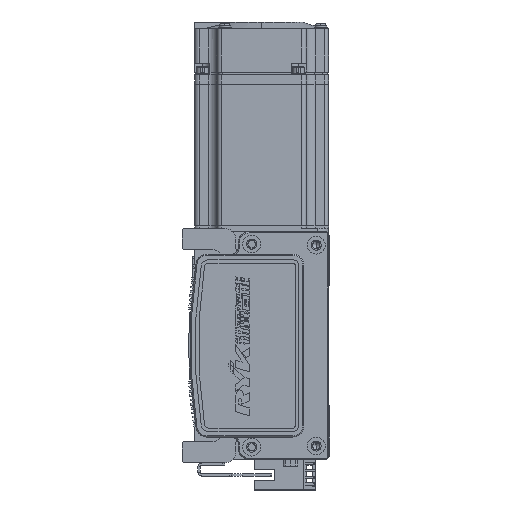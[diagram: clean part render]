
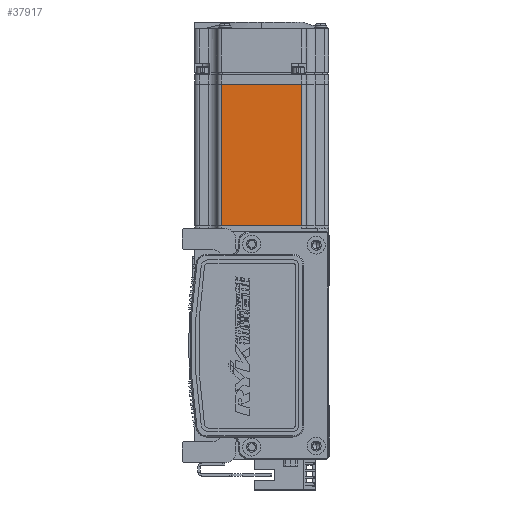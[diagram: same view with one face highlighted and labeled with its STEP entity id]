
A CAD part, left-side view. The second image highlights one B-rep face of the part: STEP entity #37917.
In plain terms, the highlighted planar face has unit normal (-1, 0, 0) as drawn and (0, 0, -1) by its records, which use the part's own axes.
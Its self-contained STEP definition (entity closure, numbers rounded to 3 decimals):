
#36 = EDGE_CURVE ( 'NONE', #55182, #30613, #18963, .T. ) ;
#6442 = DIRECTION ( 'NONE',  ( 0., -1., 0. ) ) ;
#7824 = EDGE_CURVE ( 'NONE', #30613, #25745, #30218, .T. ) ;
#9573 = CARTESIAN_POINT ( 'NONE',  ( -6.5, 18., -30. ) ) ;
#11890 = EDGE_CURVE ( 'NONE', #25745, #51344, #63932, .T. ) ;
#13771 = DIRECTION ( 'NONE',  ( -1., 0., 0. ) ) ;
#14722 = LINE ( 'NONE', #17395, #35012 ) ;
#15160 = AXIS2_PLACEMENT_3D ( 'NONE', #43996, #33932, #59107 ) ;
#16525 = DIRECTION ( 'NONE',  ( 0., 1., 0. ) ) ;
#17395 = CARTESIAN_POINT ( 'NONE',  ( -70.95, 25., -30. ) ) ;
#18963 = LINE ( 'NONE', #9573, #42396 ) ;
#19273 = VECTOR ( 'NONE', #6442, 1000. ) ;
#20014 = FACE_OUTER_BOUND ( 'NONE', #44222, .T. ) ;
#23523 = CARTESIAN_POINT ( 'NONE',  ( -70.95, 18., -30. ) ) ;
#24318 = CARTESIAN_POINT ( 'NONE',  ( -6.5, -18., -30. ) ) ;
#25745 = VERTEX_POINT ( 'NONE', #47765 ) ;
#30218 = LINE ( 'NONE', #56145, #19273 ) ;
#30613 = VERTEX_POINT ( 'NONE', #55510 ) ;
#33342 = CARTESIAN_POINT ( 'NONE',  ( -70.95, -18., -30. ) ) ;
#33932 = DIRECTION ( 'NONE',  ( 0., 0., -1. ) ) ;
#35012 = VECTOR ( 'NONE', #16525, 1000. ) ;
#37917 = ADVANCED_FACE ( 'NONE', ( #20014 ), #54270, .T. ) ;
#38686 = ORIENTED_EDGE ( 'NONE', *, *, #11890, .T. ) ;
#41779 = ORIENTED_EDGE ( 'NONE', *, *, #7824, .T. ) ;
#42396 = VECTOR ( 'NONE', #56616, 1000. ) ;
#43996 = CARTESIAN_POINT ( 'NONE',  ( -6.5, 25., -30. ) ) ;
#44222 = EDGE_LOOP ( 'NONE', ( #41779, #38686, #45059, #55988 ) ) ;
#45059 = ORIENTED_EDGE ( 'NONE', *, *, #60119, .T. ) ;
#47765 = CARTESIAN_POINT ( 'NONE',  ( -7.75, -18., -30. ) ) ;
#51344 = VERTEX_POINT ( 'NONE', #33342 ) ;
#54270 = PLANE ( 'NONE',  #15160 ) ;
#55182 = VERTEX_POINT ( 'NONE', #23523 ) ;
#55510 = CARTESIAN_POINT ( 'NONE',  ( -7.75, 18., -30. ) ) ;
#55988 = ORIENTED_EDGE ( 'NONE', *, *, #36, .T. ) ;
#56145 = CARTESIAN_POINT ( 'NONE',  ( -7.75, 25., -30. ) ) ;
#56616 = DIRECTION ( 'NONE',  ( 1., 0., 0. ) ) ;
#59107 = DIRECTION ( 'NONE',  ( -1., 0., 0. ) ) ;
#60119 = EDGE_CURVE ( 'NONE', #51344, #55182, #14722, .T. ) ;
#63932 = LINE ( 'NONE', #24318, #64695 ) ;
#64695 = VECTOR ( 'NONE', #13771, 1000. ) ;
